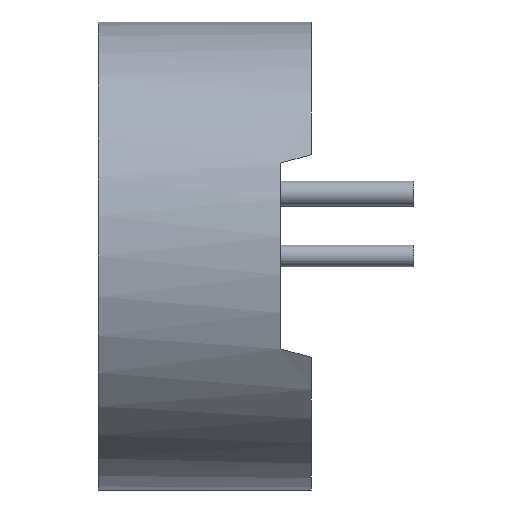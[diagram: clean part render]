
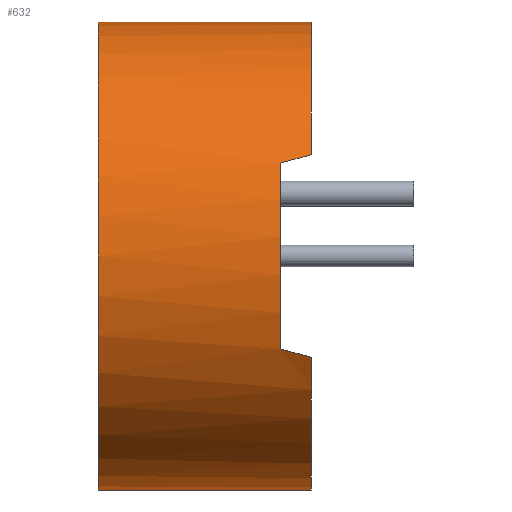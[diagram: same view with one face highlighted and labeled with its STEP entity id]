
A CAD part, left-side view. The second image highlights one B-rep face of the part: STEP entity #632.
In plain terms, the highlighted cylindrical face has radius 9.588 mm (diameter 19.177 mm), a partial arc.
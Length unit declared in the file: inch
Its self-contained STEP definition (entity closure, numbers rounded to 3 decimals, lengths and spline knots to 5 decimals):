
#25 = DIRECTION ( 'NONE',  ( 0., 1., 0. ) ) ;
#27 = CIRCLE ( 'NONE', #1350, 0.3775 ) ;
#46 = LINE ( 'NONE', #745, #260 ) ;
#53 = CARTESIAN_POINT ( 'NONE',  ( -0.3403, 0., -0.1634 ) ) ;
#72 = EDGE_CURVE ( 'NONE', #1158, #133, #1121, .T. ) ;
#78 = CARTESIAN_POINT ( 'NONE',  ( 0., 0.344, 0.3775 ) ) ;
#133 = VERTEX_POINT ( 'NONE', #1097 ) ;
#152 = DIRECTION ( 'NONE',  ( 0., 0., 1. ) ) ;
#153 = DIRECTION ( 'NONE',  ( 0., 1., 0. ) ) ;
#154 = CARTESIAN_POINT ( 'NONE',  ( 0., 0., 0. ) ) ;
#159 = DIRECTION ( 'NONE',  ( 0., -1., 0. ) ) ;
#166 = CARTESIAN_POINT ( 'NONE',  ( 0., 0.344, 0. ) ) ;
#168 = DIRECTION ( 'NONE',  ( 0., -1., 0. ) ) ;
#177 = DIRECTION ( 'NONE',  ( 0., 0., -1. ) ) ;
#195 = CARTESIAN_POINT ( 'NONE',  ( -0.3403, 0., 0.1634 ) ) ;
#215 = EDGE_CURVE ( 'NONE', #1205, #1360, #27, .T. ) ;
#221 = ORIENTED_EDGE ( 'NONE', *, *, #72, .T. ) ;
#226 = CIRCLE ( 'NONE', #1117, 0.3775 ) ;
#260 = VECTOR ( 'NONE', #744, 39.37008 ) ;
#273 = CARTESIAN_POINT ( 'NONE',  ( -0.34447, 0.03319, -0.15451 ) ) ;
#311 = EDGE_CURVE ( 'NONE', #1202, #1205, #46, .T. ) ;
#318 = LINE ( 'NONE', #1082, #901 ) ;
#332 = CARTESIAN_POINT ( 'NONE',  ( -0.34447, 0.03319, 0.15451 ) ) ;
#364 = AXIS2_PLACEMENT_3D ( 'NONE', #1375, #1374, #1373 ) ;
#379 = ORIENTED_EDGE ( 'NONE', *, *, #215, .T. ) ;
#394 = ORIENTED_EDGE ( 'NONE', *, *, #311, .T. ) ;
#409 = CARTESIAN_POINT ( 'NONE',  ( 0., 0.344, 0. ) ) ;
#415 = VERTEX_POINT ( 'NONE', #679 ) ;
#434 = CYLINDRICAL_SURFACE ( 'NONE', #1361, 0.3775 ) ;
#535 = CARTESIAN_POINT ( 'NONE',  ( 0., 0., -0.3775 ) ) ;
#541 = CARTESIAN_POINT ( 'NONE',  ( -0.34642, 0.05, -0.15 ) ) ;
#590 = CARTESIAN_POINT ( 'NONE',  ( -0.34642, 0.05, 0.15 ) ) ;
#624 = EDGE_CURVE ( 'NONE', #1370, #415, #226, .T. ) ;
#632 = ADVANCED_FACE ( 'NONE', ( #973 ), #434, .T. ) ;
#636 = CARTESIAN_POINT ( 'NONE',  ( -0.34243, 0.01652, 0.15897 ) ) ;
#642 = CARTESIAN_POINT ( 'NONE',  ( -0.34243, 0.01652, -0.15897 ) ) ;
#647 = CARTESIAN_POINT ( 'NONE',  ( -0.3403, 0., -0.1634 ) ) ;
#665 = VERTEX_POINT ( 'NONE', #78 ) ;
#679 = CARTESIAN_POINT ( 'NONE',  ( 0., 0., 0.3775 ) ) ;
#709 = CARTESIAN_POINT ( 'NONE',  ( -0.3403, 0., 0.1634 ) ) ;
#744 = DIRECTION ( 'NONE',  ( 0., -1., 0. ) ) ;
#745 = CARTESIAN_POINT ( 'NONE',  ( 0., 0.344, -0.3775 ) ) ;
#859 = ORIENTED_EDGE ( 'NONE', *, *, #1290, .F. ) ;
#861 = ORIENTED_EDGE ( 'NONE', *, *, #1335, .T. ) ;
#901 = VECTOR ( 'NONE', #159, 39.37008 ) ;
#911 = DIRECTION ( 'NONE',  ( 0., 0., 1. ) ) ;
#912 = DIRECTION ( 'NONE',  ( 0., 1., 0. ) ) ;
#915 = CARTESIAN_POINT ( 'NONE',  ( 0., 0., 0. ) ) ;
#973 = FACE_OUTER_BOUND ( 'NONE', #1216, .T. ) ;
#1034 = ORIENTED_EDGE ( 'NONE', *, *, #1178, .F. ) ;
#1077 =( BOUNDED_CURVE ( )  B_SPLINE_CURVE ( 3, ( #590, #332, #636, #195 ),
 .UNSPECIFIED., .F., .T. ) 
 B_SPLINE_CURVE_WITH_KNOTS ( ( 4, 4 ),
 ( 5.12102, 5.16004 ),
 .UNSPECIFIED. ) 
 CURVE ( )  GEOMETRIC_REPRESENTATION_ITEM ( )  RATIONAL_B_SPLINE_CURVE ( ( 1., 1., 1., 1. ) ) 
 REPRESENTATION_ITEM ( '' )  );
#1082 = CARTESIAN_POINT ( 'NONE',  ( 0., 0.344, 0.3775 ) ) ;
#1097 = CARTESIAN_POINT ( 'NONE',  ( -0.34642, 0.05, 0.15 ) ) ;
#1112 = AXIS2_PLACEMENT_3D ( 'NONE', #409, #25, #1187 ) ;
#1117 = AXIS2_PLACEMENT_3D ( 'NONE', #154, #153, #152 ) ;
#1121 = CIRCLE ( 'NONE', #364, 0.3775 ) ;
#1148 = EDGE_CURVE ( 'NONE', #133, #1370, #1077, .T. ) ;
#1158 = VERTEX_POINT ( 'NONE', #1348 ) ;
#1178 = EDGE_CURVE ( 'NONE', #1202, #665, #1365, .T. ) ;
#1184 = ORIENTED_EDGE ( 'NONE', *, *, #1148, .T. ) ;
#1187 = DIRECTION ( 'NONE',  ( 0., 0., 1. ) ) ;
#1201 =( BOUNDED_CURVE ( )  B_SPLINE_CURVE ( 3, ( #647, #642, #273, #541 ),
 .UNSPECIFIED., .F., .T. ) 
 B_SPLINE_CURVE_WITH_KNOTS ( ( 4, 4 ),
 ( 1.12315, 1.16217 ),
 .UNSPECIFIED. ) 
 CURVE ( )  GEOMETRIC_REPRESENTATION_ITEM ( )  RATIONAL_B_SPLINE_CURVE ( ( 1., 1., 1., 1. ) ) 
 REPRESENTATION_ITEM ( '' )  );
#1202 = VERTEX_POINT ( 'NONE', #1214 ) ;
#1205 = VERTEX_POINT ( 'NONE', #535 ) ;
#1214 = CARTESIAN_POINT ( 'NONE',  ( 0., 0.344, -0.3775 ) ) ;
#1216 = EDGE_LOOP ( 'NONE', ( #859, #1034, #394, #379, #861, #221, #1184, #1272 ) ) ;
#1272 = ORIENTED_EDGE ( 'NONE', *, *, #624, .T. ) ;
#1290 = EDGE_CURVE ( 'NONE', #665, #415, #318, .T. ) ;
#1335 = EDGE_CURVE ( 'NONE', #1360, #1158, #1201, .T. ) ;
#1348 = CARTESIAN_POINT ( 'NONE',  ( -0.34642, 0.05, -0.15 ) ) ;
#1350 = AXIS2_PLACEMENT_3D ( 'NONE', #915, #912, #911 ) ;
#1360 = VERTEX_POINT ( 'NONE', #53 ) ;
#1361 = AXIS2_PLACEMENT_3D ( 'NONE', #166, #168, #177 ) ;
#1365 = CIRCLE ( 'NONE', #1112, 0.3775 ) ;
#1370 = VERTEX_POINT ( 'NONE', #709 ) ;
#1373 = DIRECTION ( 'NONE',  ( 0., 0., 1. ) ) ;
#1374 = DIRECTION ( 'NONE',  ( 0., 1., 0. ) ) ;
#1375 = CARTESIAN_POINT ( 'NONE',  ( 0., 0.05, 0. ) ) ;
